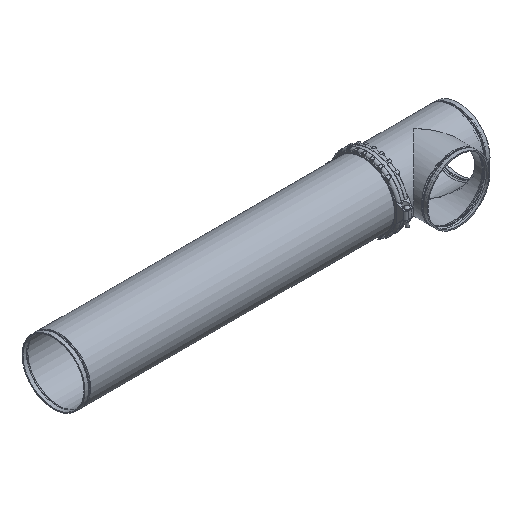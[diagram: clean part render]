
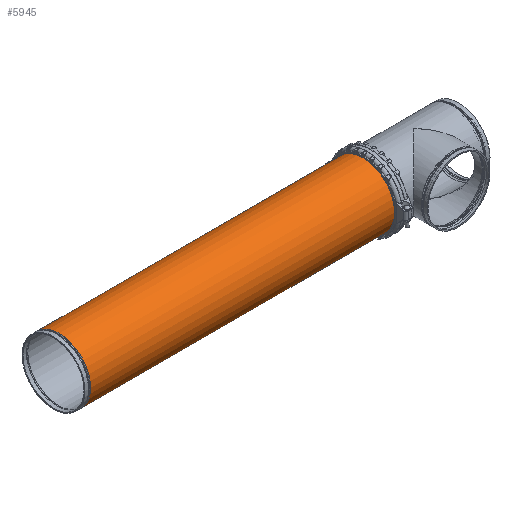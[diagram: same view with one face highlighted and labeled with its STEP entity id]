
A CAD part, isometric view. The second image highlights one B-rep face of the part: STEP entity #5945.
In plain terms, the highlighted cylindrical face has radius 304.8 mm (diameter 609.6 mm), a full revolution.
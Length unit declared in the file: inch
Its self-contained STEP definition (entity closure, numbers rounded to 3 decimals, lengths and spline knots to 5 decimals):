
#310=LINE('',#8890,#626);
#626=VECTOR('',#7138,12.);
#941=CYLINDRICAL_SURFACE('',#6375,12.);
#1101=FACE_OUTER_BOUND('',#1411,.T.);
#1411=EDGE_LOOP('',(#3729,#3730,#3731,#3732,#3733,#3734));
#1755=CIRCLE('',#6373,12.);
#1756=CIRCLE('',#6374,12.);
#1757=CIRCLE('',#6376,12.);
#1758=CIRCLE('',#6377,12.);
#2152=VERTEX_POINT('',#8880);
#2153=VERTEX_POINT('',#8881);
#2154=VERTEX_POINT('',#8886);
#2155=VERTEX_POINT('',#8887);
#2789=EDGE_CURVE('',#2152,#2153,#1755,.T.);
#2790=EDGE_CURVE('',#2153,#2152,#1756,.T.);
#2792=EDGE_CURVE('',#2154,#2155,#1757,.T.);
#2793=EDGE_CURVE('',#2155,#2154,#1758,.T.);
#2794=EDGE_CURVE('',#2155,#2153,#310,.T.);
#3729=ORIENTED_EDGE('',*,*,#2792,.F.);
#3730=ORIENTED_EDGE('',*,*,#2793,.F.);
#3731=ORIENTED_EDGE('',*,*,#2794,.T.);
#3732=ORIENTED_EDGE('',*,*,#2790,.T.);
#3733=ORIENTED_EDGE('',*,*,#2789,.T.);
#3734=ORIENTED_EDGE('',*,*,#2794,.F.);
#5945=ADVANCED_FACE('',(#1101),#941,.T.);
#6373=AXIS2_PLACEMENT_3D('',#8882,#7127,#7128);
#6374=AXIS2_PLACEMENT_3D('',#8883,#7129,#7130);
#6375=AXIS2_PLACEMENT_3D('',#8885,#7132,#7133);
#6376=AXIS2_PLACEMENT_3D('',#8888,#7134,#7135);
#6377=AXIS2_PLACEMENT_3D('',#8889,#7136,#7137);
#7127=DIRECTION('center_axis',(1.,0.,0.));
#7128=DIRECTION('ref_axis',(0.,1.,0.));
#7129=DIRECTION('center_axis',(1.,0.,0.));
#7130=DIRECTION('ref_axis',(0.,1.,0.));
#7132=DIRECTION('center_axis',(1.,0.,0.));
#7133=DIRECTION('ref_axis',(0.,1.,0.));
#7134=DIRECTION('center_axis',(1.,0.,0.));
#7135=DIRECTION('ref_axis',(0.,1.,0.));
#7136=DIRECTION('center_axis',(1.,0.,0.));
#7137=DIRECTION('ref_axis',(0.,1.,0.));
#7138=DIRECTION('',(-1.,0.,0.));
#8880=CARTESIAN_POINT('',(-57.88023,12.,0.));
#8881=CARTESIAN_POINT('',(-57.88023,-12.,0.));
#8882=CARTESIAN_POINT('Origin',(-57.88023,0.,
0.));
#8883=CARTESIAN_POINT('Origin',(-57.88023,0.,
0.));
#8885=CARTESIAN_POINT('Origin',(0.,0.,
0.));
#8886=CARTESIAN_POINT('',(57.88023,12.,0.));
#8887=CARTESIAN_POINT('',(57.88023,-12.,0.));
#8888=CARTESIAN_POINT('Origin',(57.88023,0.,0.));
#8889=CARTESIAN_POINT('Origin',(57.88023,0.,0.));
#8890=CARTESIAN_POINT('',(0.,-12.,0.));
